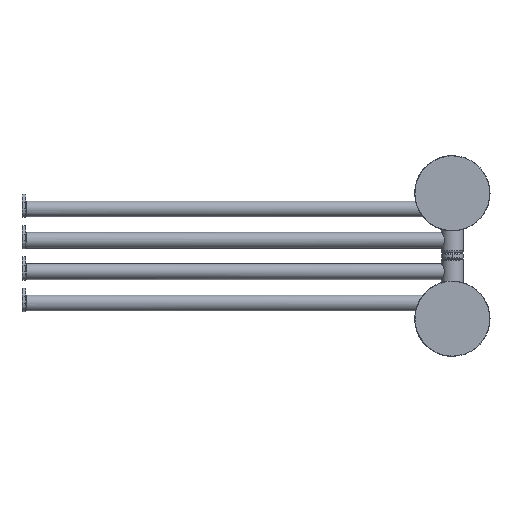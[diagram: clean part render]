
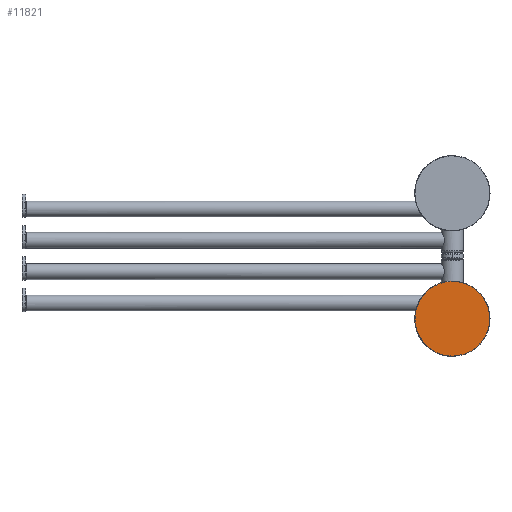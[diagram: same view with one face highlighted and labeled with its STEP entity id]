
A CAD part, front view. The second image highlights one B-rep face of the part: STEP entity #11821.
In plain terms, the highlighted planar face has unit normal (0, -1, 0).
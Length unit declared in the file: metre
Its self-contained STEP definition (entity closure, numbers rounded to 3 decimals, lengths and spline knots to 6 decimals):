
#11445=EDGE_CURVE('',#11446,#11448,#11450,.F.);
#11446=VERTEX_POINT('',#11447);
#11447=CARTESIAN_POINT('',(0.0,-0.014,-0.1298));
#11448=VERTEX_POINT('',#11449);
#11449=CARTESIAN_POINT('',(0.0,-0.014,-0.0702));
#11450=CIRCLE('',#11451,0.0298);
#11451=AXIS2_PLACEMENT_3D('',#11452,#11453,#11454);
#11452=CARTESIAN_POINT('',(0.0,-0.014,-0.1));
#11453=DIRECTION('',(0.0,1.0,0.0));
#11454=DIRECTION('',(0.0,0.0,1.0));
#11821=ADVANCED_FACE('',(#11827),#11822,.F.);
#11822=PLANE('',#11823);
#11823=AXIS2_PLACEMENT_3D('',#11824,#11825,#11826);
#11824=CARTESIAN_POINT('',(0.0,-0.014,-0.07));
#11825=DIRECTION('',(0.0,1.0,0.0));
#11826=DIRECTION('',(0.0,0.0,1.0));
#11827=FACE_OUTER_BOUND('',#11828,.T.);
#11828=EDGE_LOOP('',(#11829,#11837));
#11829=ORIENTED_EDGE('',*,*,#11831,.T.);
#11830=CARTESIAN_POINT('',(0.0,-0.014,-0.1298));
#11831=EDGE_CURVE('',#11448,#11446,#11832,.F.);
#11832=(B_SPLINE_CURVE(3,(#11830,#11833,#11834,#11835),.UNSPECIFIED.,.F.,
  .U.)B_SPLINE_CURVE_WITH_KNOTS((4,4),(0.0,1.0),.UNSPECIFIED.)BOUNDED_CURVE(
  )CURVE()GEOMETRIC_REPRESENTATION_ITEM()RATIONAL_B_SPLINE_CURVE((1.0,
  0.333,0.333,1.0))REPRESENTATION_ITEM(''));
#11833=CARTESIAN_POINT('',(-0.0596,-0.014,-0.1298));
#11834=CARTESIAN_POINT('',(-0.0596,-0.014,-0.0702));
#11835=CARTESIAN_POINT('',(0.0,-0.014,-0.0702));
#11837=ORIENTED_EDGE('',*,*,#11445,.T.);
